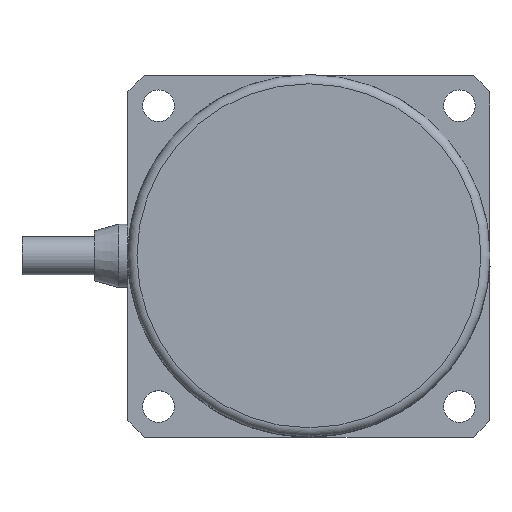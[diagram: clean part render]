
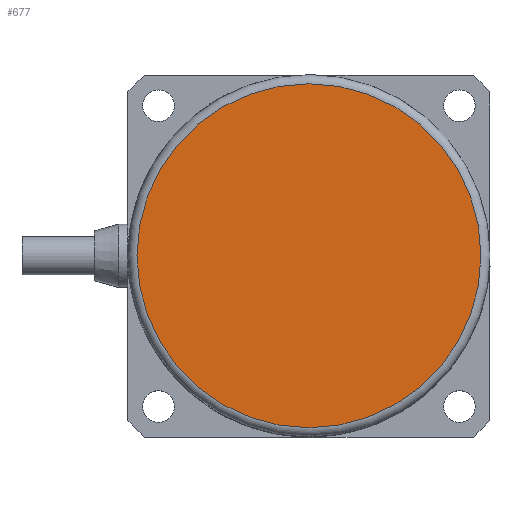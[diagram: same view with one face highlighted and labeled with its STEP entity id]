
A CAD part, top view. The second image highlights one B-rep face of the part: STEP entity #677.
In plain terms, the highlighted planar face has unit normal (0, 0, 1) as drawn and (0, 0, -1) by its records, which use the part's own axes.
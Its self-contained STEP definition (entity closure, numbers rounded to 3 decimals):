
#677=ADVANCED_FACE('',(#1314),#1315,.F.);
#1314=FACE_OUTER_BOUND('',#2051,.T.);
#1315=PLANE('',#2052);
#2051=EDGE_LOOP('',(#3148));
#2052=AXIS2_PLACEMENT_3D('',#3149,#3150,#3151);
#3148=ORIENTED_EDGE('',*,*,#4215,.T.);
#3149=CARTESIAN_POINT('',(0.0,0.0,0.0));
#3150=DIRECTION('',(0.0,0.0,1.0));
#3151=DIRECTION('',(1.0,0.0,0.0));
#4215=EDGE_CURVE('',#4899,#4899,#4900,.F.);
#4899=VERTEX_POINT('',#6070);
#4900=CIRCLE('',#6071,19.0);
#6070=CARTESIAN_POINT('',(19.0,0.,0.0));
#6071=AXIS2_PLACEMENT_3D('',#7384,#7385,#7386);
#7384=CARTESIAN_POINT('',(0.0,0.0,0.0));
#7385=DIRECTION('',(0.0,0.0,1.0));
#7386=DIRECTION('',(1.0,0.0,0.0));
